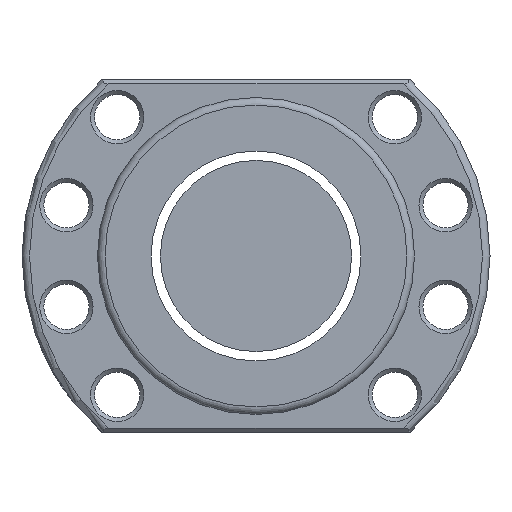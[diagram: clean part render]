
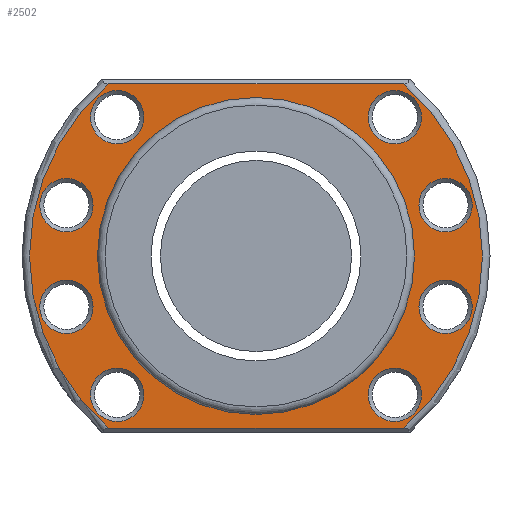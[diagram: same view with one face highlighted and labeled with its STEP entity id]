
A CAD part, left-side view. The second image highlights one B-rep face of the part: STEP entity #2502.
In plain terms, the highlighted planar face has unit normal (-1, 0, 0).
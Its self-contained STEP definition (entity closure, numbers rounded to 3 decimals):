
#1 = ORIENTED_EDGE ( 'NONE', *, *, #832, .T. ) ;
#24 = CARTESIAN_POINT ( 'NONE',  ( -87., -27.577, 32.877 ) ) ;
#44 = CARTESIAN_POINT ( 'NONE',  ( -87., 46.5, 34.2 ) ) ;
#55 = CARTESIAN_POINT ( 'NONE',  ( -87., 29.247, -34.2 ) ) ;
#76 = EDGE_CURVE ( 'NONE', #2199, #2199, #981, .T. ) ;
#80 = CARTESIAN_POINT ( 'NONE',  ( -87., -37.671, 15.394 ) ) ;
#127 = VECTOR ( 'NONE', #3293, 1000. ) ;
#130 = AXIS2_PLACEMENT_3D ( 'NONE', #1390, #594, #2152 ) ;
#164 = FACE_BOUND ( 'NONE', #1145, .T. ) ;
#204 = DIRECTION ( 'NONE',  ( 0., 0., 1. ) ) ;
#230 = DIRECTION ( 'NONE',  ( 0., 0., 1. ) ) ;
#240 = ORIENTED_EDGE ( 'NONE', *, *, #992, .T. ) ;
#321 = CARTESIAN_POINT ( 'NONE',  ( -87., -37.671, 10.094 ) ) ;
#347 = DIRECTION ( 'NONE',  ( 0., 0., 1. ) ) ;
#363 = AXIS2_PLACEMENT_3D ( 'NONE', #1438, #380, #347 ) ;
#370 = CARTESIAN_POINT ( 'NONE',  ( -87., 37.671, -10.094 ) ) ;
#380 = DIRECTION ( 'NONE',  ( -1., 0., 0. ) ) ;
#386 = ORIENTED_EDGE ( 'NONE', *, *, #1717, .T. ) ;
#400 = DIRECTION ( 'NONE',  ( 1., 0., 0. ) ) ;
#427 = FACE_OUTER_BOUND ( 'NONE', #3269, .T. ) ;
#451 = DIRECTION ( 'NONE',  ( 0., 0., 1. ) ) ;
#465 = EDGE_CURVE ( 'NONE', #1377, #2962, #946, .T. ) ;
#479 = ORIENTED_EDGE ( 'NONE', *, *, #1901, .T. ) ;
#499 = FACE_BOUND ( 'NONE', #1531, .T. ) ;
#544 = CARTESIAN_POINT ( 'NONE',  ( -87., -29.247, 34.2 ) ) ;
#594 = DIRECTION ( 'NONE',  ( 1., 0., 0. ) ) ;
#615 = EDGE_CURVE ( 'NONE', #2962, #1634, #3234, .T. ) ;
#692 = VERTEX_POINT ( 'NONE', #1768 ) ;
#714 = DIRECTION ( 'NONE',  ( 1., 0., 0. ) ) ;
#716 = CARTESIAN_POINT ( 'NONE',  ( -87., 0., 0. ) ) ;
#752 = CIRCLE ( 'NONE', #2840, 5.3 ) ;
#798 = EDGE_LOOP ( 'NONE', ( #386 ) ) ;
#801 = EDGE_LOOP ( 'NONE', ( #2998 ) ) ;
#823 = DIRECTION ( 'NONE',  ( 1., 0., 0. ) ) ;
#832 = EDGE_CURVE ( 'NONE', #2073, #1377, #1440, .T. ) ;
#833 = DIRECTION ( 'NONE',  ( 1., 0., 0. ) ) ;
#851 = EDGE_CURVE ( 'NONE', #2677, #2677, #3256, .T. ) ;
#919 = CARTESIAN_POINT ( 'NONE',  ( -87., -37.671, -10.094 ) ) ;
#942 = AXIS2_PLACEMENT_3D ( 'NONE', #3109, #970, #230 ) ;
#944 = CARTESIAN_POINT ( 'NONE',  ( -87., -27.577, -22.277 ) ) ;
#946 = LINE ( 'NONE', #3309, #127 ) ;
#965 = VERTEX_POINT ( 'NONE', #2261 ) ;
#970 = DIRECTION ( 'NONE',  ( 1., 0., 0. ) ) ;
#981 = CIRCLE ( 'NONE', #3016, 5.3 ) ;
#992 = EDGE_CURVE ( 'NONE', #3209, #3209, #1686, .T. ) ;
#1000 = VECTOR ( 'NONE', #2972, 1000. ) ;
#1062 = ORIENTED_EDGE ( 'NONE', *, *, #465, .T. ) ;
#1075 = AXIS2_PLACEMENT_3D ( 'NONE', #1113, #833, #2948 ) ;
#1081 = ORIENTED_EDGE ( 'NONE', *, *, #615, .T. ) ;
#1113 = CARTESIAN_POINT ( 'NONE',  ( -87., 0., 0. ) ) ;
#1145 = EDGE_LOOP ( 'NONE', ( #1782 ) ) ;
#1210 = CIRCLE ( 'NONE', #130, 5.3 ) ;
#1238 = EDGE_LOOP ( 'NONE', ( #479 ) ) ;
#1257 = CARTESIAN_POINT ( 'NONE',  ( -87., 46.5, 0. ) ) ;
#1304 = DIRECTION ( 'NONE',  ( 0., 0., 1. ) ) ;
#1343 = ORIENTED_EDGE ( 'NONE', *, *, #1652, .T. ) ;
#1377 = VERTEX_POINT ( 'NONE', #55 ) ;
#1378 = CIRCLE ( 'NONE', #1389, 5.3 ) ;
#1389 = AXIS2_PLACEMENT_3D ( 'NONE', #2411, #1913, #3436 ) ;
#1390 = CARTESIAN_POINT ( 'NONE',  ( -87., 27.577, -27.577 ) ) ;
#1438 = CARTESIAN_POINT ( 'NONE',  ( -87., 0., 0. ) ) ;
#1440 = CIRCLE ( 'NONE', #3097, 45. ) ;
#1469 = CARTESIAN_POINT ( 'NONE',  ( -87., 37.671, 15.394 ) ) ;
#1487 = EDGE_CURVE ( 'NONE', #965, #965, #1493, .T. ) ;
#1493 = CIRCLE ( 'NONE', #2785, 5.3 ) ;
#1531 = EDGE_LOOP ( 'NONE', ( #1343 ) ) ;
#1547 = FACE_BOUND ( 'NONE', #801, .T. ) ;
#1565 = FACE_BOUND ( 'NONE', #798, .T. ) ;
#1574 = DIRECTION ( 'NONE',  ( -1., 0., 0. ) ) ;
#1594 = EDGE_LOOP ( 'NONE', ( #240 ) ) ;
#1627 = DIRECTION ( 'NONE',  ( 0., 0., 1. ) ) ;
#1634 = VERTEX_POINT ( 'NONE', #544 ) ;
#1642 = DIRECTION ( 'NONE',  ( 1., 0., 0. ) ) ;
#1652 = EDGE_CURVE ( 'NONE', #1748, #1748, #752, .T. ) ;
#1657 = DIRECTION ( 'NONE',  ( 0., 0., 1. ) ) ;
#1673 = AXIS2_PLACEMENT_3D ( 'NONE', #1942, #823, #1657 ) ;
#1676 = CARTESIAN_POINT ( 'NONE',  ( -87., 37.671, -4.794 ) ) ;
#1686 = CIRCLE ( 'NONE', #1075, 31.5 ) ;
#1705 = VERTEX_POINT ( 'NONE', #1469 ) ;
#1717 = EDGE_CURVE ( 'NONE', #3307, #3307, #1378, .T. ) ;
#1734 = VERTEX_POINT ( 'NONE', #1954 ) ;
#1748 = VERTEX_POINT ( 'NONE', #80 ) ;
#1766 = FACE_BOUND ( 'NONE', #3252, .T. ) ;
#1768 = CARTESIAN_POINT ( 'NONE',  ( -87., 27.577, 32.877 ) ) ;
#1782 = ORIENTED_EDGE ( 'NONE', *, *, #3318, .T. ) ;
#1823 = ORIENTED_EDGE ( 'NONE', *, *, #851, .T. ) ;
#1876 = LINE ( 'NONE', #44, #1000 ) ;
#1901 = EDGE_CURVE ( 'NONE', #1734, #1734, #1210, .T. ) ;
#1913 = DIRECTION ( 'NONE',  ( 1., 0., 0. ) ) ;
#1938 = CARTESIAN_POINT ( 'NONE',  ( -87., 29.247, 34.2 ) ) ;
#1942 = CARTESIAN_POINT ( 'NONE',  ( -87., 37.671, 10.094 ) ) ;
#1954 = CARTESIAN_POINT ( 'NONE',  ( -87., 27.577, -22.277 ) ) ;
#1964 = DIRECTION ( 'NONE',  ( 0., 0., 1. ) ) ;
#2014 = DIRECTION ( 'NONE',  ( 0., 0., 1. ) ) ;
#2046 = AXIS2_PLACEMENT_3D ( 'NONE', #3090, #714, #451 ) ;
#2073 = VERTEX_POINT ( 'NONE', #1938 ) ;
#2152 = DIRECTION ( 'NONE',  ( 0., 0., 1. ) ) ;
#2199 = VERTEX_POINT ( 'NONE', #1676 ) ;
#2237 = EDGE_LOOP ( 'NONE', ( #2945 ) ) ;
#2261 = CARTESIAN_POINT ( 'NONE',  ( -87., -37.671, -4.794 ) ) ;
#2273 = CARTESIAN_POINT ( 'NONE',  ( -87., -29.247, -34.2 ) ) ;
#2295 = DIRECTION ( 'NONE',  ( -1., 0., 0. ) ) ;
#2363 = AXIS2_PLACEMENT_3D ( 'NONE', #1257, #2295, #204 ) ;
#2411 = CARTESIAN_POINT ( 'NONE',  ( -87., -27.577, -27.577 ) ) ;
#2502 = ADVANCED_FACE ( 'NONE', ( #1565, #1547, #499, #2552, #1766, #164, #3118, #2585, #2804, #427 ), #2601, .T. ) ;
#2552 = FACE_BOUND ( 'NONE', #2651, .T. ) ;
#2585 = FACE_BOUND ( 'NONE', #1238, .T. ) ;
#2601 = PLANE ( 'NONE',  #2363 ) ;
#2651 = EDGE_LOOP ( 'NONE', ( #1823 ) ) ;
#2655 = ORIENTED_EDGE ( 'NONE', *, *, #3217, .T. ) ;
#2677 = VERTEX_POINT ( 'NONE', #24 ) ;
#2693 = CARTESIAN_POINT ( 'NONE',  ( -87., 0., -31.5 ) ) ;
#2704 = CIRCLE ( 'NONE', #2046, 5.3 ) ;
#2736 = ORIENTED_EDGE ( 'NONE', *, *, #3349, .T. ) ;
#2785 = AXIS2_PLACEMENT_3D ( 'NONE', #919, #400, #1964 ) ;
#2804 = FACE_BOUND ( 'NONE', #1594, .T. ) ;
#2840 = AXIS2_PLACEMENT_3D ( 'NONE', #321, #1642, #1627 ) ;
#2945 = ORIENTED_EDGE ( 'NONE', *, *, #76, .T. ) ;
#2948 = DIRECTION ( 'NONE',  ( 0., 0., -1. ) ) ;
#2962 = VERTEX_POINT ( 'NONE', #2273 ) ;
#2972 = DIRECTION ( 'NONE',  ( 0., 1., 0. ) ) ;
#2998 = ORIENTED_EDGE ( 'NONE', *, *, #1487, .T. ) ;
#3016 = AXIS2_PLACEMENT_3D ( 'NONE', #370, #3330, #2014 ) ;
#3090 = CARTESIAN_POINT ( 'NONE',  ( -87., 27.577, 27.577 ) ) ;
#3097 = AXIS2_PLACEMENT_3D ( 'NONE', #716, #1574, #1304 ) ;
#3109 = CARTESIAN_POINT ( 'NONE',  ( -87., -27.577, 27.577 ) ) ;
#3118 = FACE_BOUND ( 'NONE', #2237, .T. ) ;
#3144 = CIRCLE ( 'NONE', #1673, 5.3 ) ;
#3209 = VERTEX_POINT ( 'NONE', #2693 ) ;
#3217 = EDGE_CURVE ( 'NONE', #692, #692, #2704, .T. ) ;
#3234 = CIRCLE ( 'NONE', #363, 45. ) ;
#3252 = EDGE_LOOP ( 'NONE', ( #2655 ) ) ;
#3256 = CIRCLE ( 'NONE', #942, 5.3 ) ;
#3269 = EDGE_LOOP ( 'NONE', ( #1, #1062, #1081, #2736 ) ) ;
#3293 = DIRECTION ( 'NONE',  ( 0., -1., 0. ) ) ;
#3307 = VERTEX_POINT ( 'NONE', #944 ) ;
#3309 = CARTESIAN_POINT ( 'NONE',  ( -87., 46.5, -34.2 ) ) ;
#3318 = EDGE_CURVE ( 'NONE', #1705, #1705, #3144, .T. ) ;
#3330 = DIRECTION ( 'NONE',  ( 1., 0., 0. ) ) ;
#3349 = EDGE_CURVE ( 'NONE', #1634, #2073, #1876, .T. ) ;
#3436 = DIRECTION ( 'NONE',  ( 0., 0., 1. ) ) ;
